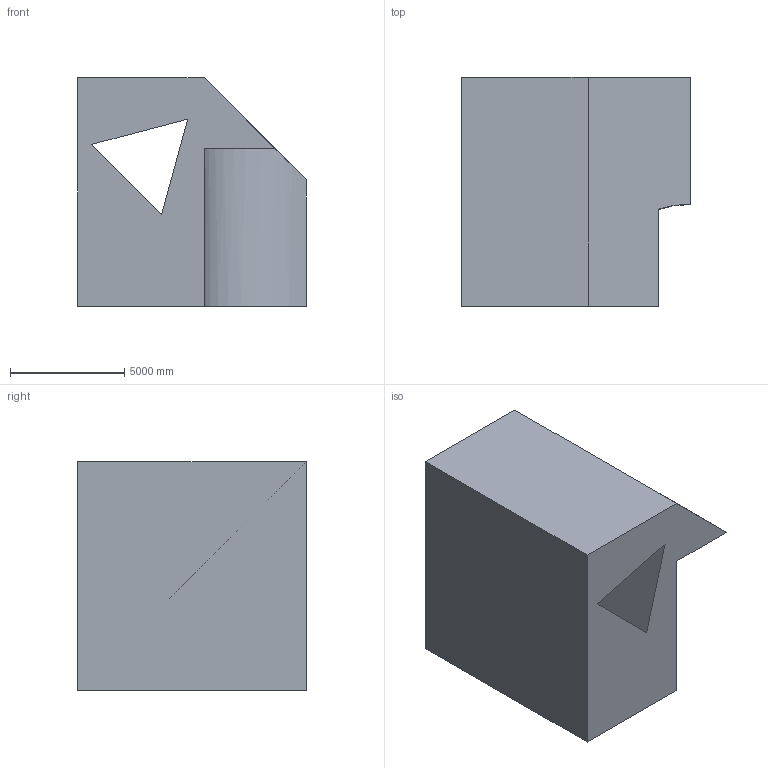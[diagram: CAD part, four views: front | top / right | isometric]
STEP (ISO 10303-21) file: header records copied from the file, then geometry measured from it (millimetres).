
FILE_DESCRIPTION (( 'STEP AP203' ), '1' );
FILE_NAME ('281.STEP', '2022-07-28T14:11:50', ( 'user' ), ( '' ), 'SwSTEP 2.0', 'SolidWorks 2021', '' );
FILE_SCHEMA (( 'CONFIG_CONTROL_DESIGN' ));
Length unit declared in the file: centimetre
Products named in the file (1): 281
Bounding box: 10000 x 10000 x 10000 mm (x, y, z)
Volume: 714745225234.1 mm3; surface area: 645722843.7 mm2
Topology: 1 solids, 1 shells, 12 faces, 30 edges, 20 vertices
Faces by surface type: plane 11, cylinder 1
Entity records: 437 total; most frequent: CARTESIAN_POINT 66, ORIENTED_EDGE 60, DIRECTION 57, EDGE_CURVE 30, VECTOR 27, LINE 27, VERTEX_POINT 20, AXIS2_PLACEMENT_3D 15
